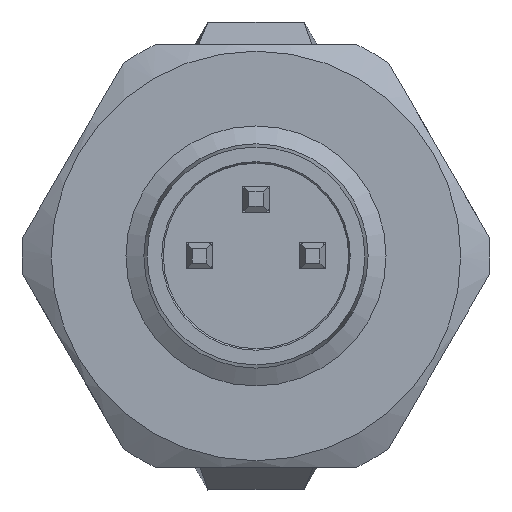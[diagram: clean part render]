
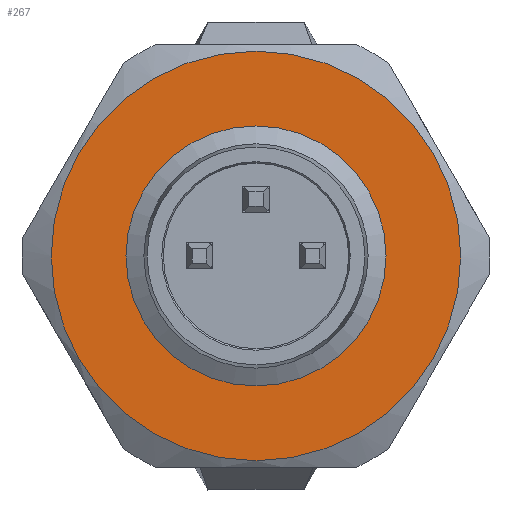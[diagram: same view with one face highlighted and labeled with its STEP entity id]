
A CAD part, left-side view. The second image highlights one B-rep face of the part: STEP entity #267.
In plain terms, the highlighted planar face has unit normal (-1, 0, 0) as drawn and (0, 1, 0) by its records, which use the part's own axes.
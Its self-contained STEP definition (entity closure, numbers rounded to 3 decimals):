
#267 = ADVANCED_FACE( '', ( #475, #476 ), #477, .T. );
#475 = FACE_BOUND( '', #692, .T. );
#476 = FACE_OUTER_BOUND( '', #693, .T. );
#477 = PLANE( '', #694 );
#692 = EDGE_LOOP( '', ( #1377 ) );
#693 = EDGE_LOOP( '', ( #1378 ) );
#694 = AXIS2_PLACEMENT_3D( '', #1379, #1380, #1381 );
#1377 = ORIENTED_EDGE( '', *, *, #1606, .T. );
#1378 = ORIENTED_EDGE( '', *, *, #1580, .F. );
#1379 = CARTESIAN_POINT( '', ( 0., 2., 0. ) );
#1380 = DIRECTION( '', ( 0., 1., 0. ) );
#1381 = DIRECTION( '', ( 0., 0., 1. ) );
#1580 = EDGE_CURVE( '', #1918, #1918, #1919, .T. );
#1606 = EDGE_CURVE( '', #1958, #1958, #1959, .F. );
#1918 = VERTEX_POINT( '', #2604 );
#1919 = CIRCLE( '', #2605, 6.3 );
#1958 = VERTEX_POINT( '', #2724 );
#1959 = CIRCLE( '', #2725, 3.959 );
#2604 = CARTESIAN_POINT( '', ( 0., 2., -6.3 ) );
#2605 = AXIS2_PLACEMENT_3D( '', #3014, #3015, #3016 );
#2724 = CARTESIAN_POINT( '', ( 0., 2., 3.959 ) );
#2725 = AXIS2_PLACEMENT_3D( '', #3050, #3051, #3052 );
#3014 = CARTESIAN_POINT( '', ( 0., 2., 0. ) );
#3015 = DIRECTION( '', ( 0., -1., 0. ) );
#3016 = DIRECTION( '', ( 0., 0., -1. ) );
#3050 = CARTESIAN_POINT( '', ( 0., 2., 0. ) );
#3051 = DIRECTION( '', ( 0., 1., 0. ) );
#3052 = DIRECTION( '', ( 0., 0., 1. ) );
